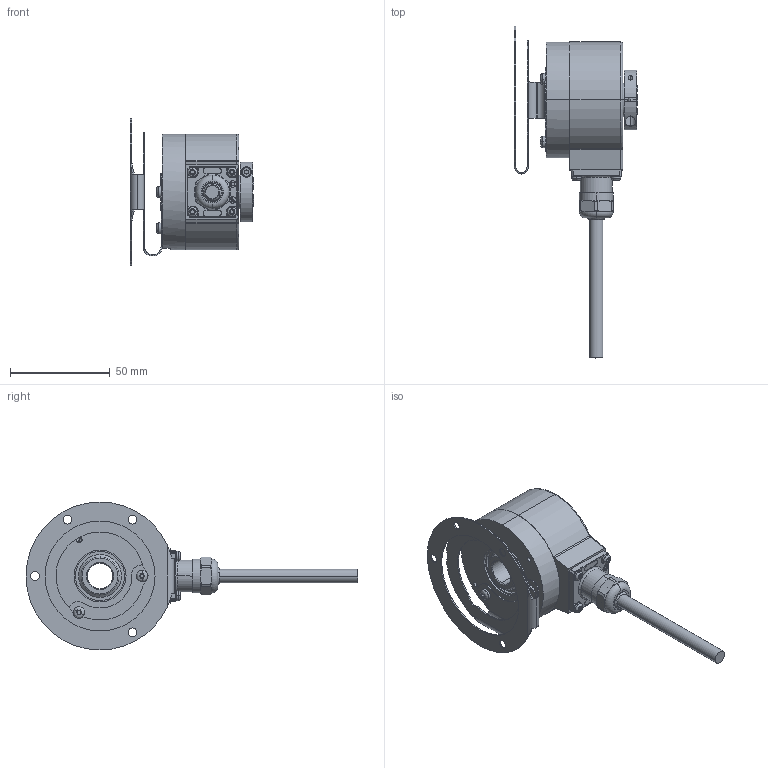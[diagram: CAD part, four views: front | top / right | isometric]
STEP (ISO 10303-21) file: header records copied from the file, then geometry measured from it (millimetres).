
FILE_DESCRIPTION (( 'STEP AP203' ), '1' );
FILE_NAME ('K58I.OXX.XXXXX.XC1353A.6XR31.XXXX.step', '2025-12-08T11:44:03', ( '' ), ( '' ), 'SwSTEP 2.0', 'SolidWorks 2021', '' );
FILE_SCHEMA (( 'CONFIG_CONTROL_DESIGN' ));
Length unit declared in the file: millimetre
Products named in the file (1): K58I.OXX.XXXXX.XC1353A.6XR31.XXXX
Bounding box: 61.59 x 166 x 74 mm (x, y, z)
Volume: 115607.9 mm3; surface area: 45514.5 mm2
Topology: 10 solids, 10 shells, 746 faces, 1926 edges, 1218 vertices
Faces by surface type: cylinder 378, plane 197, cone 71, bspline 44, torus 40, sphere 16
Entity records: 25450 total; most frequent: CARTESIAN_POINT 7125, DIRECTION 3943, ORIENTED_EDGE 3824, EDGE_CURVE 1912, AXIS2_PLACEMENT_3D 1564, VERTEX_POINT 1218, CIRCLE 861, VECTOR 815
